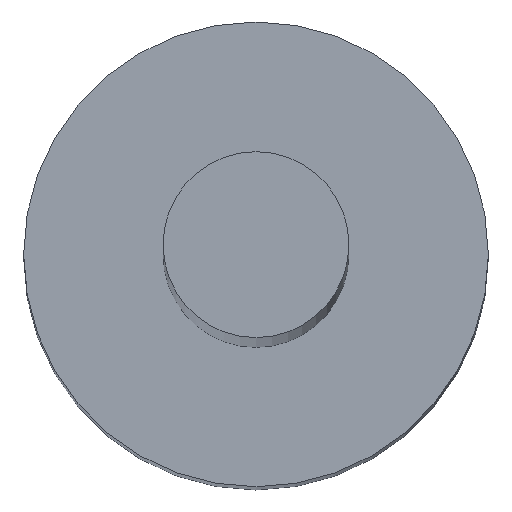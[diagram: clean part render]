
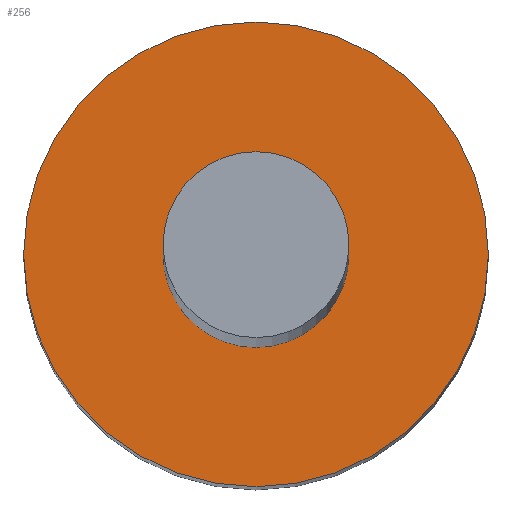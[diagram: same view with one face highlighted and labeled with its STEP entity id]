
A CAD part, top view. The second image highlights one B-rep face of the part: STEP entity #256.
In plain terms, the highlighted planar face has unit normal (0, 0, 1).
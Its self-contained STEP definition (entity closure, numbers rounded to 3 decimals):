
#8 = DIRECTION ( 'NONE',  ( 0., 0., 1. ) ) ;
#9 = VERTEX_POINT ( 'NONE', #281 ) ;
#13 = VERTEX_POINT ( 'NONE', #184 ) ;
#22 = AXIS2_PLACEMENT_3D ( 'NONE', #335, #249, #301 ) ;
#24 = DIRECTION ( 'NONE',  ( 1., 0., 0. ) ) ;
#62 = CARTESIAN_POINT ( 'NONE',  ( 0.5, 0., 10. ) ) ;
#65 = CARTESIAN_POINT ( 'NONE',  ( 0., 0., 10. ) ) ;
#71 = AXIS2_PLACEMENT_3D ( 'NONE', #93, #341, #187 ) ;
#75 = DIRECTION ( 'NONE',  ( 0., 0., 1. ) ) ;
#81 = CIRCLE ( 'NONE', #22, 1.25 ) ;
#82 = ORIENTED_EDGE ( 'NONE', *, *, #349, .F. ) ;
#84 = FACE_BOUND ( 'NONE', #289, .T. ) ;
#93 = CARTESIAN_POINT ( 'NONE',  ( 0., 0., 10. ) ) ;
#102 = EDGE_CURVE ( 'NONE', #9, #209, #81, .T. ) ;
#105 = CARTESIAN_POINT ( 'NONE',  ( 1.25, 0., 10. ) ) ;
#126 = CIRCLE ( 'NONE', #71, 0.5 ) ;
#130 = ORIENTED_EDGE ( 'NONE', *, *, #173, .T. ) ;
#139 = DIRECTION ( 'NONE',  ( 1., 0., 0. ) ) ;
#173 = EDGE_CURVE ( 'NONE', #209, #9, #407, .T. ) ;
#180 = CARTESIAN_POINT ( 'NONE',  ( 0., 0., 10. ) ) ;
#183 = CARTESIAN_POINT ( 'NONE',  ( 0., 0., 10. ) ) ;
#184 = CARTESIAN_POINT ( 'NONE',  ( -0.5, 0., 10. ) ) ;
#187 = DIRECTION ( 'NONE',  ( 1., 0., 0. ) ) ;
#209 = VERTEX_POINT ( 'NONE', #105 ) ;
#211 = FACE_OUTER_BOUND ( 'NONE', #272, .T. ) ;
#227 = ORIENTED_EDGE ( 'NONE', *, *, #315, .F. ) ;
#229 = AXIS2_PLACEMENT_3D ( 'NONE', #183, #413, #246 ) ;
#246 = DIRECTION ( 'NONE',  ( 1., 0., 0. ) ) ;
#249 = DIRECTION ( 'NONE',  ( 0., 0., 1. ) ) ;
#256 = ADVANCED_FACE ( 'NONE', ( #84, #211 ), #296, .T. ) ;
#272 = EDGE_LOOP ( 'NONE', ( #294, #130 ) ) ;
#281 = CARTESIAN_POINT ( 'NONE',  ( -1.25, 0., 10. ) ) ;
#289 = EDGE_LOOP ( 'NONE', ( #82, #227 ) ) ;
#294 = ORIENTED_EDGE ( 'NONE', *, *, #102, .T. ) ;
#296 = PLANE ( 'NONE',  #399 ) ;
#301 = DIRECTION ( 'NONE',  ( 1., 0., 0. ) ) ;
#315 = EDGE_CURVE ( 'NONE', #324, #13, #351, .T. ) ;
#324 = VERTEX_POINT ( 'NONE', #62 ) ;
#335 = CARTESIAN_POINT ( 'NONE',  ( 0., 0., 10. ) ) ;
#341 = DIRECTION ( 'NONE',  ( 0., 0., 1. ) ) ;
#349 = EDGE_CURVE ( 'NONE', #13, #324, #126, .T. ) ;
#351 = CIRCLE ( 'NONE', #229, 0.5 ) ;
#371 = AXIS2_PLACEMENT_3D ( 'NONE', #65, #8, #139 ) ;
#399 = AXIS2_PLACEMENT_3D ( 'NONE', #180, #75, #24 ) ;
#407 = CIRCLE ( 'NONE', #371, 1.25 ) ;
#413 = DIRECTION ( 'NONE',  ( 0., 0., 1. ) ) ;
